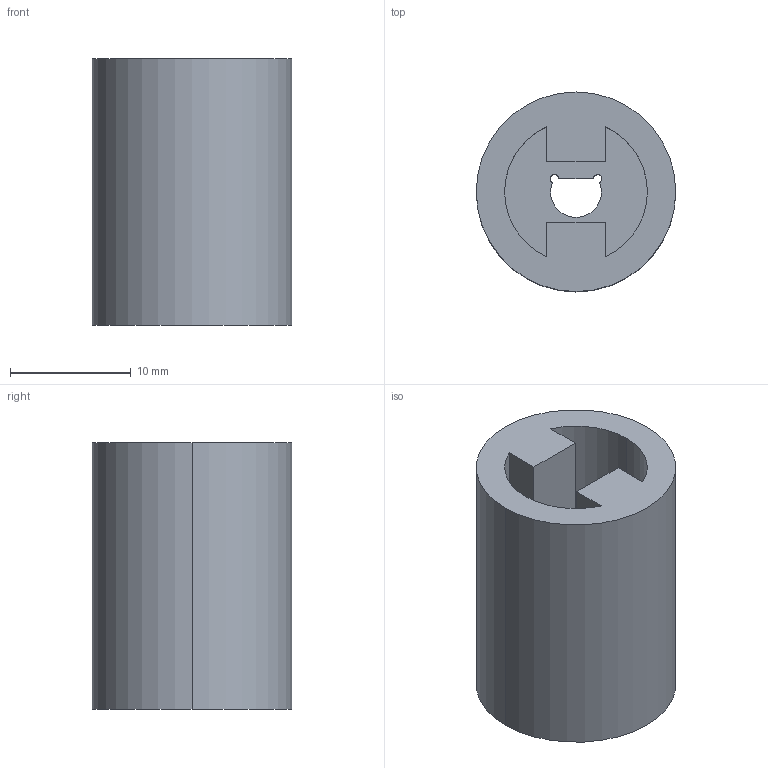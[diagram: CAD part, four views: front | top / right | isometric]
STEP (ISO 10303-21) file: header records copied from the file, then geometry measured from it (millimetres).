
FILE_DESCRIPTION (( 'STEP AP203' ), '1' );
FILE_NAME ('Front-To-Rear Axle Connector.STEP', '2026-01-17T21:10:58', ( '' ), ( '' ), 'SwSTEP 2.0', 'SolidWorks 2026', '' );
FILE_SCHEMA (( 'CONFIG_CONTROL_DESIGN' ));
Length unit declared in the file: millimetre
Products named in the file (1): Front-To-Rear Axle Connector
Bounding box: 16.5 x 16.5 x 22 mm (x, y, z)
Volume: 3980.3 mm3; surface area: 2093.3 mm2
Topology: 1 solids, 1 shells, 21 faces, 54 edges, 36 vertices
Faces by surface type: cylinder 11, plane 10
Entity records: 729 total; most frequent: DIRECTION 120, CARTESIAN_POINT 112, ORIENTED_EDGE 108, EDGE_CURVE 54, AXIS2_PLACEMENT_3D 44, VERTEX_POINT 36, VECTOR 32, LINE 32
